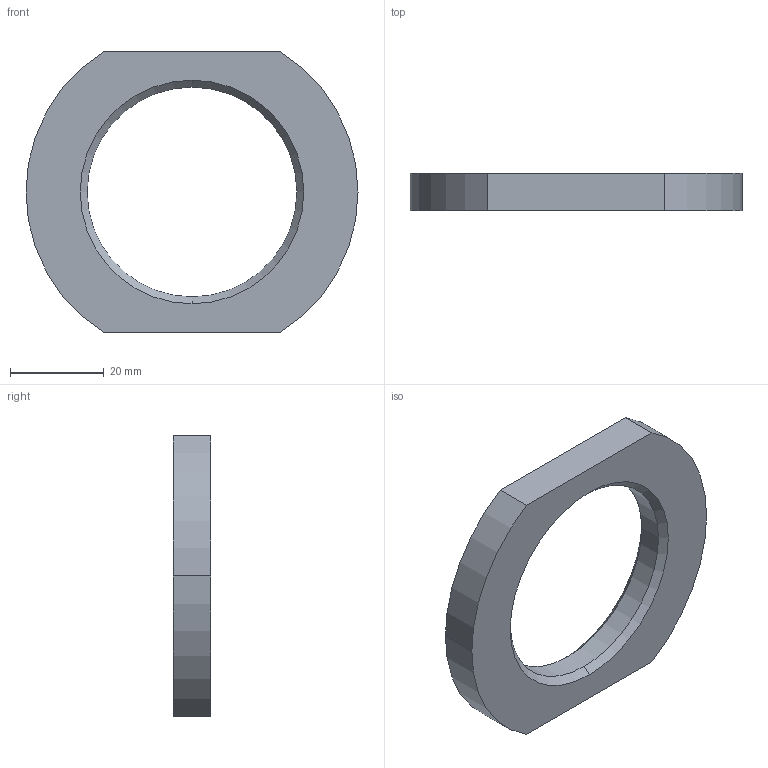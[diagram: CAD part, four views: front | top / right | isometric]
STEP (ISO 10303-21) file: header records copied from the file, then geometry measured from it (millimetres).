
FILE_DESCRIPTION(('starvars output'),'2;1');
FILE_NAME('E11031_3.stp','16:00:08 2007/04/16',( 'Thomas Industrial Network Germany GmbH'),( 'Thomas Industrial Network Germany GmbH'),'unknown preprocess','ACIS' ,'unknown authorization');
FILE_SCHEMA(('CONFIG_CONTROL_DESIGN {UNKNOWN IMPLEMENTATION LEVEL}'));
Length unit declared in the file: millimetre
Products named in the file (1): PRODUCT_ID_140
Bounding box: 71 x 8 x 60 mm (x, y, z)
Volume: 16458.7 mm3; surface area: 6833 mm2
Topology: 1 solids, 1 shells, 14 faces, 36 edges, 24 vertices
Faces by surface type: cylinder 6, plane 4, cone 4
Entity records: 429 total; most frequent: ORIENTED_EDGE 72, CARTESIAN_POINT 54, DIRECTION 44, EDGE_CURVE 36, VERTEX_POINT 24, VECTOR 16, LINE 16, EDGE_LOOP 16
